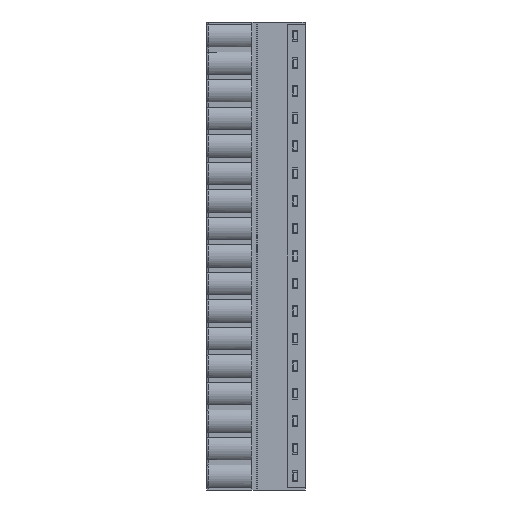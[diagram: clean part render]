
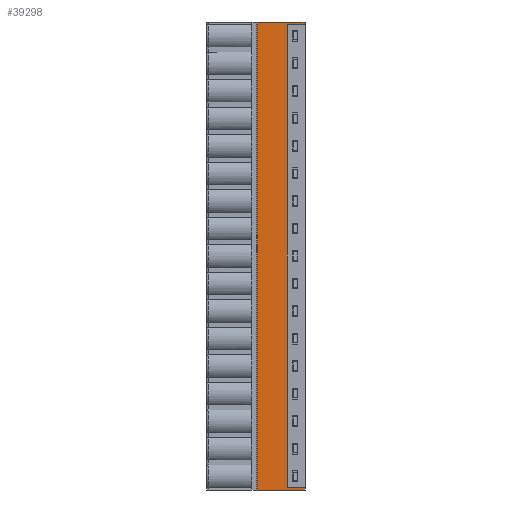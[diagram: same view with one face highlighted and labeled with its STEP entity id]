
A CAD part, left-side view. The second image highlights one B-rep face of the part: STEP entity #39298.
In plain terms, the highlighted planar face has unit normal (-1, 0, 0).
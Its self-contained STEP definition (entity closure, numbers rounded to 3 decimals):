
#27 = AXIS2_PLACEMENT_3D ( 'NONE', #54029, #64517, #44216 ) ;
#2147 = CARTESIAN_POINT ( 'NONE',  ( -3.9, 0., 86.36 ) ) ;
#2161 = DIRECTION ( 'NONE',  ( 0., 0., -1. ) ) ;
#2617 = VERTEX_POINT ( 'NONE', #11864 ) ;
#3437 = ORIENTED_EDGE ( 'NONE', *, *, #38014, .T. ) ;
#3702 = VERTEX_POINT ( 'NONE', #17817 ) ;
#3956 = CARTESIAN_POINT ( 'NONE',  ( -3.9, 0., 85.87 ) ) ;
#8484 = ORIENTED_EDGE ( 'NONE', *, *, #25029, .F. ) ;
#9369 = ORIENTED_EDGE ( 'NONE', *, *, #43635, .F. ) ;
#9752 = CARTESIAN_POINT ( 'NONE',  ( -3.9, 8.8, 86.36 ) ) ;
#10255 = CARTESIAN_POINT ( 'NONE',  ( -3.9, 3.3, 0.492 ) ) ;
#10905 = ORIENTED_EDGE ( 'NONE', *, *, #31615, .T. ) ;
#11558 = CARTESIAN_POINT ( 'NONE',  ( -3.9, 0., 85.87 ) ) ;
#11614 = EDGE_CURVE ( 'NONE', #53633, #3702, #20025, .T. ) ;
#11864 = CARTESIAN_POINT ( 'NONE',  ( -3.9, 2.9, 85.87 ) ) ;
#12528 = DIRECTION ( 'NONE',  ( 0., 0., -1. ) ) ;
#13292 = VERTEX_POINT ( 'NONE', #64629 ) ;
#14424 = CARTESIAN_POINT ( 'NONE',  ( -3.9, 8.8, 86.36 ) ) ;
#15516 = CARTESIAN_POINT ( 'NONE',  ( -3.9, 3.033, 0.491 ) ) ;
#16126 = CARTESIAN_POINT ( 'NONE',  ( -3.9, 8.8, 86.36 ) ) ;
#16916 = PLANE ( 'NONE',  #27 ) ;
#17817 = CARTESIAN_POINT ( 'NONE',  ( -3.9, 0., 0.49 ) ) ;
#20025 = B_SPLINE_CURVE_WITH_KNOTS ( 'NONE', 3,
 ( #26462, #47825, #54114, #27165 ),
 .UNSPECIFIED., .F., .F.,
 ( 4, 4 ),
 ( 0., 1. ),
 .UNSPECIFIED. ) ;
#21011 = B_SPLINE_CURVE_WITH_KNOTS ( 'NONE', 3,
 ( #50372, #44799, #59508, #11558 ),
 .UNSPECIFIED., .F., .F.,
 ( 4, 4 ),
 ( 0., 1. ),
 .UNSPECIFIED. ) ;
#22006 = CARTESIAN_POINT ( 'NONE',  ( -3.9, 8.8, 0. ) ) ;
#22160 = CARTESIAN_POINT ( 'NONE',  ( -3.9, 3.167, 0.492 ) ) ;
#22261 = B_SPLINE_CURVE_WITH_KNOTS ( 'NONE', 3,
 ( #27058, #22160, #15516, #69066 ),
 .UNSPECIFIED., .F., .F.,
 ( 4, 4 ),
 ( 0., 1. ),
 .UNSPECIFIED. ) ;
#22518 = FACE_OUTER_BOUND ( 'NONE', #29095, .T. ) ;
#23509 = DIRECTION ( 'NONE',  ( 0., 0., -1. ) ) ;
#24741 = VERTEX_POINT ( 'NONE', #10255 ) ;
#25029 = EDGE_CURVE ( 'NONE', #52331, #24741, #39972, .T. ) ;
#26120 = CARTESIAN_POINT ( 'NONE',  ( -3.9, 3.3, 85.868 ) ) ;
#26462 = CARTESIAN_POINT ( 'NONE',  ( -3.9, 2.9, 0.49 ) ) ;
#27058 = CARTESIAN_POINT ( 'NONE',  ( -3.9, 3.3, 0.492 ) ) ;
#27165 = CARTESIAN_POINT ( 'NONE',  ( -3.9, 0., 0.49 ) ) ;
#27246 = LINE ( 'NONE', #28284, #31417 ) ;
#27288 = ORIENTED_EDGE ( 'NONE', *, *, #45152, .T. ) ;
#27564 = VERTEX_POINT ( 'NONE', #22006 ) ;
#27938 = VECTOR ( 'NONE', #57377, 1000. ) ;
#28284 = CARTESIAN_POINT ( 'NONE',  ( -3.9, 0., 0.49 ) ) ;
#28402 = VECTOR ( 'NONE', #48573, 1000. ) ;
#28732 = ORIENTED_EDGE ( 'NONE', *, *, #55307, .T. ) ;
#29095 = EDGE_LOOP ( 'NONE', ( #10905, #34765, #36978, #66360, #8484, #28732, #27288, #9369, #60858, #3437 ) ) ;
#31417 = VECTOR ( 'NONE', #12528, 1000. ) ;
#31615 = EDGE_CURVE ( 'NONE', #27564, #13292, #42973, .T. ) ;
#33418 = VERTEX_POINT ( 'NONE', #3956 ) ;
#34765 = ORIENTED_EDGE ( 'NONE', *, *, #55116, .F. ) ;
#36978 = ORIENTED_EDGE ( 'NONE', *, *, #11614, .F. ) ;
#37152 = LINE ( 'NONE', #16126, #63592 ) ;
#38014 = EDGE_CURVE ( 'NONE', #40635, #27564, #37152, .T. ) ;
#39298 = ADVANCED_FACE ( 'NONE', ( #22518 ), #16916, .T. ) ;
#39972 = LINE ( 'NONE', #66901, #59094 ) ;
#40576 = CARTESIAN_POINT ( 'NONE',  ( -3.9, 2.9, 0.49 ) ) ;
#40635 = VERTEX_POINT ( 'NONE', #14424 ) ;
#41533 = CARTESIAN_POINT ( 'NONE',  ( -3.9, 3.033, 85.869 ) ) ;
#42973 = LINE ( 'NONE', #43328, #28402 ) ;
#43328 = CARTESIAN_POINT ( 'NONE',  ( -3.9, 8.8, 0. ) ) ;
#43635 = EDGE_CURVE ( 'NONE', #48008, #33418, #55356, .T. ) ;
#44216 = DIRECTION ( 'NONE',  ( 0., 0., 1. ) ) ;
#44799 = CARTESIAN_POINT ( 'NONE',  ( -3.9, 1.933, 85.87 ) ) ;
#45152 = EDGE_CURVE ( 'NONE', #2617, #33418, #21011, .T. ) ;
#46118 = CARTESIAN_POINT ( 'NONE',  ( -3.9, 0., 86.36 ) ) ;
#46787 = CARTESIAN_POINT ( 'NONE',  ( -3.9, 2.9, 85.87 ) ) ;
#47825 = CARTESIAN_POINT ( 'NONE',  ( -3.9, 1.933, 0.49 ) ) ;
#48008 = VERTEX_POINT ( 'NONE', #46118 ) ;
#48573 = DIRECTION ( 'NONE',  ( 0., -1., 0. ) ) ;
#48854 = B_SPLINE_CURVE_WITH_KNOTS ( 'NONE', 3,
 ( #26120, #52719, #41533, #46787 ),
 .UNSPECIFIED., .F., .F.,
 ( 4, 4 ),
 ( 0., 1. ),
 .UNSPECIFIED. ) ;
#50372 = CARTESIAN_POINT ( 'NONE',  ( -3.9, 2.9, 85.87 ) ) ;
#50551 = CARTESIAN_POINT ( 'NONE',  ( -3.9, 3.3, 85.868 ) ) ;
#52331 = VERTEX_POINT ( 'NONE', #50551 ) ;
#52719 = CARTESIAN_POINT ( 'NONE',  ( -3.9, 3.167, 85.868 ) ) ;
#53633 = VERTEX_POINT ( 'NONE', #40576 ) ;
#54029 = CARTESIAN_POINT ( 'NONE',  ( -3.9, 8.9, 0. ) ) ;
#54114 = CARTESIAN_POINT ( 'NONE',  ( -3.9, 0.967, 0.49 ) ) ;
#55116 = EDGE_CURVE ( 'NONE', #3702, #13292, #27246, .T. ) ;
#55307 = EDGE_CURVE ( 'NONE', #52331, #2617, #48854, .T. ) ;
#55356 = LINE ( 'NONE', #2147, #58628 ) ;
#57030 = LINE ( 'NONE', #9752, #27938 ) ;
#57377 = DIRECTION ( 'NONE',  ( 0., -1., 0. ) ) ;
#58628 = VECTOR ( 'NONE', #23509, 1000. ) ;
#59094 = VECTOR ( 'NONE', #2161, 1000. ) ;
#59429 = EDGE_CURVE ( 'NONE', #24741, #53633, #22261, .T. ) ;
#59508 = CARTESIAN_POINT ( 'NONE',  ( -3.9, 0.967, 85.87 ) ) ;
#60858 = ORIENTED_EDGE ( 'NONE', *, *, #61126, .F. ) ;
#61126 = EDGE_CURVE ( 'NONE', #40635, #48008, #57030, .T. ) ;
#63372 = DIRECTION ( 'NONE',  ( 0., 0., -1. ) ) ;
#63592 = VECTOR ( 'NONE', #63372, 1000. ) ;
#64517 = DIRECTION ( 'NONE',  ( -1., 0., 0. ) ) ;
#64629 = CARTESIAN_POINT ( 'NONE',  ( -3.9, 0., 0. ) ) ;
#66360 = ORIENTED_EDGE ( 'NONE', *, *, #59429, .F. ) ;
#66901 = CARTESIAN_POINT ( 'NONE',  ( -3.9, 3.3, 85.868 ) ) ;
#69066 = CARTESIAN_POINT ( 'NONE',  ( -3.9, 2.9, 0.49 ) ) ;
